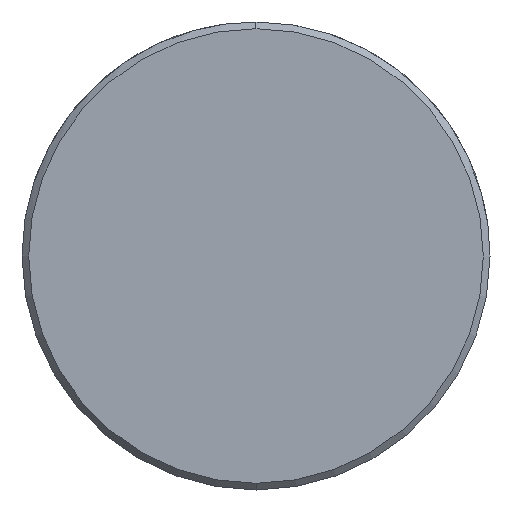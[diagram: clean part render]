
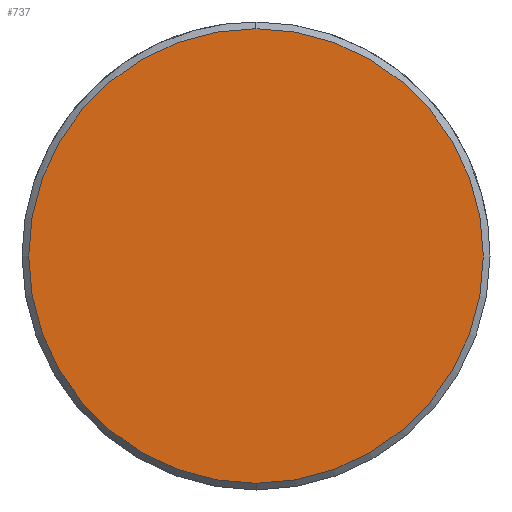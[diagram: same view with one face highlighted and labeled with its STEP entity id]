
A CAD part, left-side view. The second image highlights one B-rep face of the part: STEP entity #737.
In plain terms, the highlighted planar face has unit normal (-1, 0, 0).
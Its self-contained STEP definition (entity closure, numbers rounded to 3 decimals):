
#669=CARTESIAN_POINT('Vertex',(0.,0.,-10.2)) ;
#672=CARTESIAN_POINT('Axis2P3D Location',(0.,0.,0.)) ;
#676=CARTESIAN_POINT('Vertex',(0.,10.2,0.)) ;
#679=CARTESIAN_POINT('Axis2P3D Location',(0.,0.,0.)) ;
#683=CARTESIAN_POINT('Vertex',(0.,0.,10.2)) ;
#705=CARTESIAN_POINT('Axis2P3D Location',(0.,0.,0.)) ;
#709=CARTESIAN_POINT('Vertex',(0.,-10.2,0.)) ;
#712=CARTESIAN_POINT('Axis2P3D Location',(0.,0.,0.)) ;
#726=CARTESIAN_POINT('Axis2P3D Location',(0.,0.,0.)) ;
#673=DIRECTION('Axis2P3D Direction',(1.,0.,-0.)) ;
#680=DIRECTION('Axis2P3D Direction',(1.,0.,-0.)) ;
#706=DIRECTION('Axis2P3D Direction',(1.,0.,-0.)) ;
#713=DIRECTION('Axis2P3D Direction',(1.,0.,-0.)) ;
#727=DIRECTION('Axis2P3D Direction',(1.,0.,-0.)) ;
#728=DIRECTION('Axis2P3D XDirection',(-0.,0.,-1.)) ;
#674=AXIS2_PLACEMENT_3D('Circle Axis2P3D',#672,#673,$) ;
#681=AXIS2_PLACEMENT_3D('Circle Axis2P3D',#679,#680,$) ;
#707=AXIS2_PLACEMENT_3D('Circle Axis2P3D',#705,#706,$) ;
#714=AXIS2_PLACEMENT_3D('Circle Axis2P3D',#712,#713,$) ;
#729=AXIS2_PLACEMENT_3D('Plane Axis2P3D',#726,#727,#728) ;
#732=ORIENTED_EDGE('',*,*,#678,.F.) ;
#733=ORIENTED_EDGE('',*,*,#716,.F.) ;
#734=ORIENTED_EDGE('',*,*,#711,.F.) ;
#735=ORIENTED_EDGE('',*,*,#685,.F.) ;
#737=ADVANCED_FACE('549-18X80',(#736),#730,.F.) ;
#675=CIRCLE('generated circle',#674,10.2) ;
#682=CIRCLE('generated circle',#681,10.2) ;
#708=CIRCLE('generated circle',#707,10.2) ;
#715=CIRCLE('generated circle',#714,10.2) ;
#678=EDGE_CURVE('',#670,#677,#675,.T.) ;
#685=EDGE_CURVE('',#677,#684,#682,.T.) ;
#711=EDGE_CURVE('',#684,#710,#708,.T.) ;
#716=EDGE_CURVE('',#710,#670,#715,.T.) ;
#731=EDGE_LOOP('',(#732,#733,#734,#735)) ;
#736=FACE_OUTER_BOUND('',#731,.T.) ;
#730=PLANE('Plane',#729) ;
#670=VERTEX_POINT('',#669) ;
#677=VERTEX_POINT('',#676) ;
#684=VERTEX_POINT('',#683) ;
#710=VERTEX_POINT('',#709) ;
